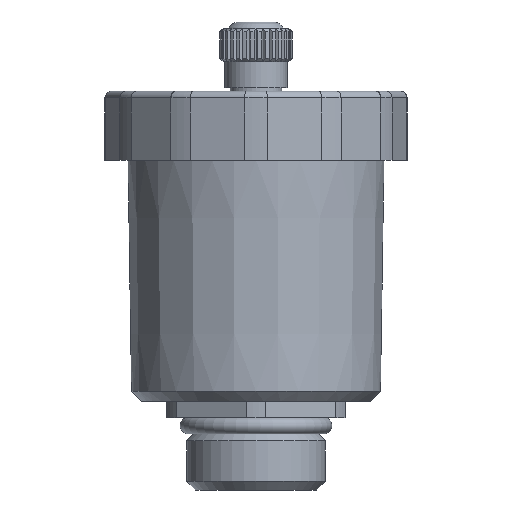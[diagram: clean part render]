
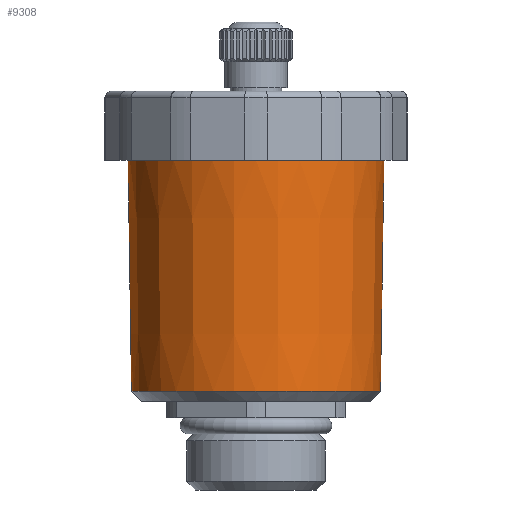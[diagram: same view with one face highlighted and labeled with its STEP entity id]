
A CAD part, front view. The second image highlights one B-rep face of the part: STEP entity #9308.
In plain terms, the highlighted conical face has half-angle 0.863 degrees and reference radius 19.125 mm.
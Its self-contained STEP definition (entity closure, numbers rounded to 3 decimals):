
#8850=CARTESIAN_POINT('',(-18.873,-0.,15.));
#8851=VERTEX_POINT('',#8850);
#9255=CARTESIAN_POINT('',(18.873,0.,15.));
#9256=VERTEX_POINT('',#9255);
#9257=CARTESIAN_POINT('',(-0.,0.,15.));
#9258=DIRECTION('',(0.,-0.,-1.));
#9259=DIRECTION('',(-1.,0.,-0.));
#9260=AXIS2_PLACEMENT_3D('',#9257,#9258,#9259);
#9261=CIRCLE('',#9260,18.873);
#9262=EDGE_CURVE('',#8851,#9256,#9261,.T.);
#9264=CARTESIAN_POINT('',(-0.,0.,15.));
#9265=DIRECTION('',(0.,-0.,-1.));
#9266=DIRECTION('',(-1.,0.,-0.));
#9267=AXIS2_PLACEMENT_3D('',#9264,#9265,#9266);
#9268=CIRCLE('',#9267,18.873);
#9269=EDGE_CURVE('',#9256,#8851,#9268,.T.);
#9274=CARTESIAN_POINT('',(-0.,0.,31.75));
#9275=DIRECTION('',(-0.,0.,1.));
#9276=DIRECTION('',(1.,0.,0.));
#9277=AXIS2_PLACEMENT_3D('',#9274,#9275,#9276);
#9278=CONICAL_SURFACE('',#9277,19.125,0.863);
#9279=CARTESIAN_POINT('',(19.4,0.,50.));
#9280=VERTEX_POINT('',#9279);
#9281=CARTESIAN_POINT('',(19.4,0.,50.));
#9282=DIRECTION('',(-0.015,-0.,-1.));
#9283=VECTOR('',#9282,35.004);
#9284=LINE('',#9281,#9283);
#9285=EDGE_CURVE('',#9280,#9256,#9284,.T.);
#9286=ORIENTED_EDGE('',*,*,#9285,.T.);
#9287=ORIENTED_EDGE('',*,*,#9262,.F.);
#9288=ORIENTED_EDGE('',*,*,#9269,.F.);
#9289=ORIENTED_EDGE('',*,*,#9285,.F.);
#9290=CARTESIAN_POINT('',(-19.4,0.,50.));
#9291=VERTEX_POINT('',#9290);
#9292=CARTESIAN_POINT('',(-0.,0.,50.));
#9293=DIRECTION('',(0.,-0.,-1.));
#9294=DIRECTION('',(1.,0.,0.));
#9295=AXIS2_PLACEMENT_3D('',#9292,#9293,#9294);
#9296=CIRCLE('',#9295,19.4);
#9297=EDGE_CURVE('',#9280,#9291,#9296,.T.);
#9298=ORIENTED_EDGE('',*,*,#9297,.T.);
#9299=CARTESIAN_POINT('',(-0.,0.,50.));
#9300=DIRECTION('',(0.,-0.,-1.));
#9301=DIRECTION('',(1.,0.,0.));
#9302=AXIS2_PLACEMENT_3D('',#9299,#9300,#9301);
#9303=CIRCLE('',#9302,19.4);
#9304=EDGE_CURVE('',#9291,#9280,#9303,.T.);
#9305=ORIENTED_EDGE('',*,*,#9304,.T.);
#9306=EDGE_LOOP('',(#9286,#9287,#9288,#9289,#9298,#9305));
#9307=FACE_BOUND('',#9306,.T.);
#9308=ADVANCED_FACE('',(#9307),#9278,.T.);
